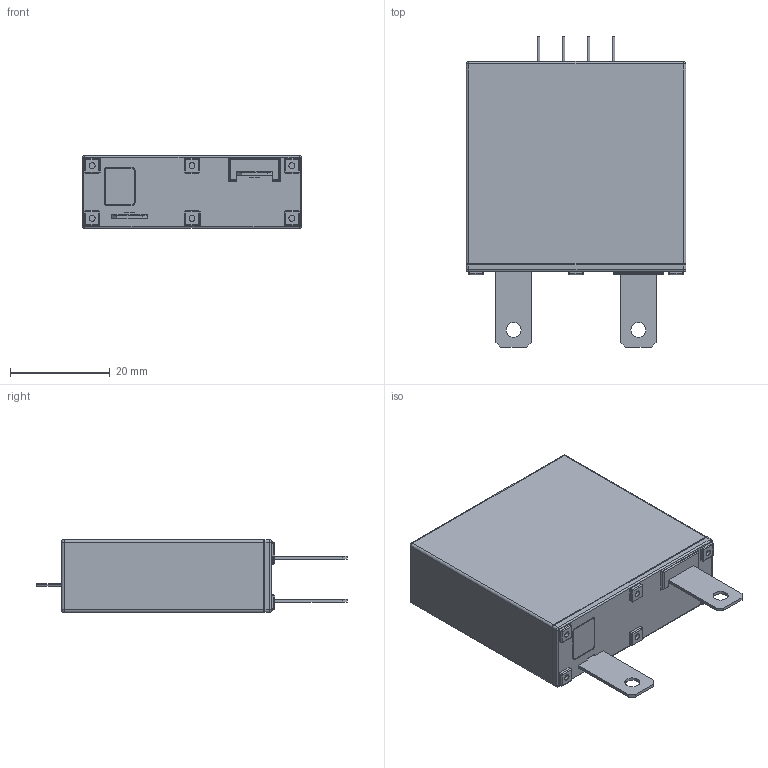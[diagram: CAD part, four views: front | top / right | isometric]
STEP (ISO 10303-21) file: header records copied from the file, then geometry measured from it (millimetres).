
FILE_DESCRIPTION((''),'2;1');
FILE_NAME('TFMOV40K-14-2IT-20200620','2020-08-12T',('SET-01114'),(''),'PRO/ENGINEER BY PARAMETRIC TECHNOLOGY CORPORATION, 2012310','PRO/ENGINEER BY PARAMETRIC TECHNOLOGY CORPORATION, 2012310','');
FILE_SCHEMA(('CONFIG_CONTROL_DESIGN','SHAPE_APPEARANCE_LAYERS_GROUPS'));
Length unit declared in the file: millimetre
Products named in the file (1): TFMOV40K-14-2IT-20200620
Bounding box: 44 x 62.2 x 14.6 mm (x, y, z)
Volume: 27092.7 mm3; surface area: 6916.4 mm2
Topology: 1 solids, 2 shells, 274 faces, 624 edges, 373 vertices
Faces by surface type: cylinder 120, plane 111, sphere 30, torus 8, bspline 5
Entity records: 9928 total; most frequent: CARTESIAN_POINT 1555, DIRECTION 1352, ORIENTED_EDGE 1248, PRESENTATION_STYLE_ASSIGNMENT 642, STYLED_ITEM 625, CURVE_STYLE 624, EDGE_CURVE 624, AXIS2_PLACEMENT_3D 487
